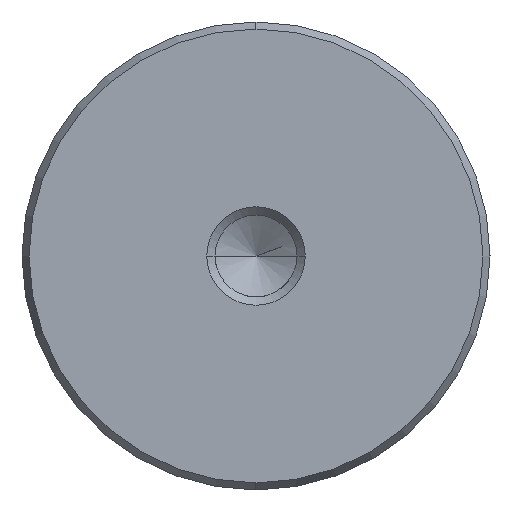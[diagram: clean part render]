
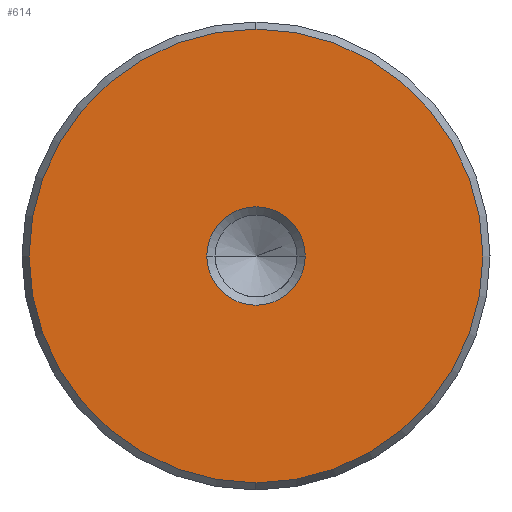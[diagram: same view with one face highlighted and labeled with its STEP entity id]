
A CAD part, left-side view. The second image highlights one B-rep face of the part: STEP entity #614.
In plain terms, the highlighted planar face has unit normal (-1, 0, 0).
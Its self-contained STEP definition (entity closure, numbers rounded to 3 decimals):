
#528=CARTESIAN_POINT('Vertex',(0.,0.,-18.423)) ;
#531=CARTESIAN_POINT('Axis2P3D Location',(0.,0.,0.)) ;
#535=CARTESIAN_POINT('Vertex',(0.,18.423,0.)) ;
#538=CARTESIAN_POINT('Axis2P3D Location',(0.,0.,0.)) ;
#542=CARTESIAN_POINT('Vertex',(0.,0.,18.423)) ;
#564=CARTESIAN_POINT('Axis2P3D Location',(0.,0.,0.)) ;
#568=CARTESIAN_POINT('Vertex',(0.,-18.423,0.)) ;
#571=CARTESIAN_POINT('Axis2P3D Location',(0.,0.,0.)) ;
#585=CARTESIAN_POINT('Axis2P3D Location',(0.,0.,0.)) ;
#596=CARTESIAN_POINT('Axis2P3D Location',(0.,0.,0.)) ;
#600=CARTESIAN_POINT('Vertex',(0.,4.,0.)) ;
#602=CARTESIAN_POINT('Vertex',(0.,-4.,0.)) ;
#605=CARTESIAN_POINT('Axis2P3D Location',(0.,0.,0.)) ;
#532=DIRECTION('Axis2P3D Direction',(1.,0.,-0.)) ;
#539=DIRECTION('Axis2P3D Direction',(1.,0.,-0.)) ;
#565=DIRECTION('Axis2P3D Direction',(1.,0.,-0.)) ;
#572=DIRECTION('Axis2P3D Direction',(1.,0.,-0.)) ;
#586=DIRECTION('Axis2P3D Direction',(1.,0.,-0.)) ;
#587=DIRECTION('Axis2P3D XDirection',(-0.,0.,-1.)) ;
#597=DIRECTION('Axis2P3D Direction',(1.,0.,-0.)) ;
#606=DIRECTION('Axis2P3D Direction',(1.,0.,-0.)) ;
#533=AXIS2_PLACEMENT_3D('Circle Axis2P3D',#531,#532,$) ;
#540=AXIS2_PLACEMENT_3D('Circle Axis2P3D',#538,#539,$) ;
#566=AXIS2_PLACEMENT_3D('Circle Axis2P3D',#564,#565,$) ;
#573=AXIS2_PLACEMENT_3D('Circle Axis2P3D',#571,#572,$) ;
#588=AXIS2_PLACEMENT_3D('Plane Axis2P3D',#585,#586,#587) ;
#598=AXIS2_PLACEMENT_3D('Circle Axis2P3D',#596,#597,$) ;
#607=AXIS2_PLACEMENT_3D('Circle Axis2P3D',#605,#606,$) ;
#591=ORIENTED_EDGE('',*,*,#537,.F.) ;
#592=ORIENTED_EDGE('',*,*,#575,.F.) ;
#593=ORIENTED_EDGE('',*,*,#570,.F.) ;
#594=ORIENTED_EDGE('',*,*,#544,.F.) ;
#611=ORIENTED_EDGE('',*,*,#604,.T.) ;
#612=ORIENTED_EDGE('',*,*,#609,.T.) ;
#613=FACE_BOUND('',#610,.T.) ;
#614=ADVANCED_FACE('720-38x250',(#595,#613),#589,.F.) ;
#534=CIRCLE('generated circle',#533,18.423) ;
#541=CIRCLE('generated circle',#540,18.423) ;
#567=CIRCLE('generated circle',#566,18.423) ;
#574=CIRCLE('generated circle',#573,18.423) ;
#599=CIRCLE('generated circle',#598,4.) ;
#608=CIRCLE('generated circle',#607,4.) ;
#537=EDGE_CURVE('',#529,#536,#534,.T.) ;
#544=EDGE_CURVE('',#536,#543,#541,.T.) ;
#570=EDGE_CURVE('',#543,#569,#567,.T.) ;
#575=EDGE_CURVE('',#569,#529,#574,.T.) ;
#604=EDGE_CURVE('',#601,#603,#599,.T.) ;
#609=EDGE_CURVE('',#603,#601,#608,.T.) ;
#590=EDGE_LOOP('',(#591,#592,#593,#594)) ;
#610=EDGE_LOOP('',(#611,#612)) ;
#595=FACE_OUTER_BOUND('',#590,.T.) ;
#589=PLANE('Plane',#588) ;
#529=VERTEX_POINT('',#528) ;
#536=VERTEX_POINT('',#535) ;
#543=VERTEX_POINT('',#542) ;
#569=VERTEX_POINT('',#568) ;
#601=VERTEX_POINT('',#600) ;
#603=VERTEX_POINT('',#602) ;
